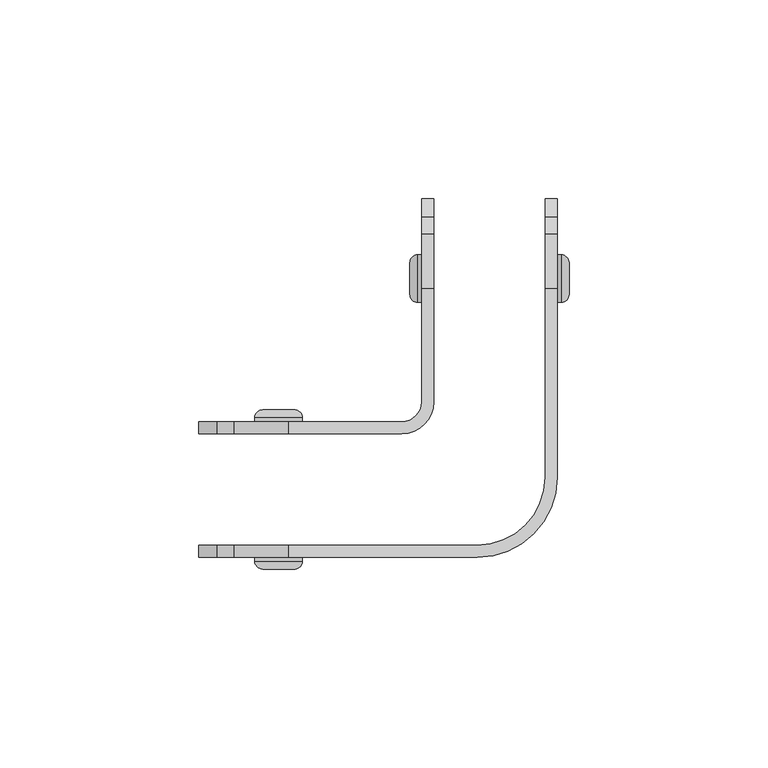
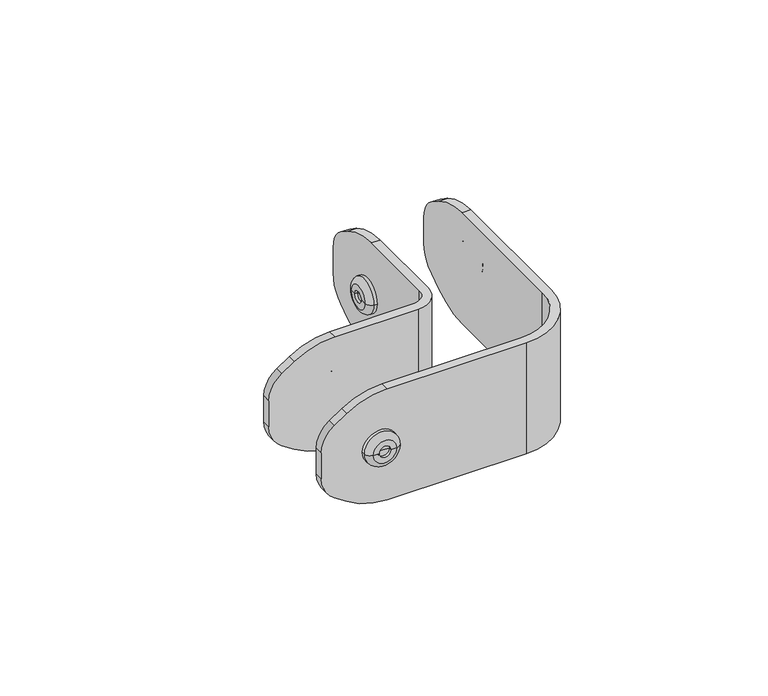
"""IFC4 building model written with IfcOpenShell, lengths in millimetres: furniture geometry, DBLTD_Sixteen3_PrivacyScreens_Artus_Bracket : 90° Corner Link."""

from ifc_helpers import new_model, si_unit, point, frame, origin, place, context, project, spatial, polyline, circle_curve, ellipse_curve, trimmed, source, transform, mapped, element, save
from ifc_brep_helpers import plane_surface, cylinder_surface, revolved_surface, advanced_brep


def furniture_53994bdf(model_context):
    return source(origin(), model_context, "Body", "AdvancedBrep", [
        advanced_brep(
        [(17.0, 867.0, 100.0), (17.0, 879.0, 100.0), (17.9858199, 879.0, 100.0), (17.9858199, 867.0, 100.0), (17.0, 873.0, 100.0), (19.0, 871.0, 100.0), (19.0, 875.0, 100.0), (19.0, 873.0, 100.0), (20.0, 871.0, 100.0), (20.0, 875.0, 100.0), (20.0, 869.0141801, 100.0), (20.0, 876.9858199, 100.0)],
        [
            (0, 1, circle_curve(frame((17.0, 873.0, 100.0), z_axis=(1.0, 0.0, 0.0), x_axis=(0.0, 1.0, 0.0)), 6.0)),
            (1, 2),
            (2, 3, circle_curve(frame((17.9858199, 873.0, 100.0), z_axis=(-1.0, 0.0, 0.0), x_axis=(0.0, 1.0, 0.0)), 6.0)),
            (3, 0),
            (1, 0, circle_curve(frame((17.0, 873.0, 100.0), z_axis=(1.0, 0.0, 0.0), x_axis=(0.0, 1.0, 0.0)), 6.0)),
            (3, 2, circle_curve(frame((17.9858199, 873.0, 100.0), z_axis=(-1.0, 0.0, 0.0), x_axis=(0.0, 1.0, 0.0)), 6.0)),
            (4, 1),
            (0, 4),
            (5, 6, circle_curve(frame((19.0, 873.0, 100.0), z_axis=(1.0, 0.0, 0.0), x_axis=(0.0, 1.0, 0.0)), 2.0)),
            (6, 7),
            (7, 5),
            (6, 5, circle_curve(frame((19.0, 873.0, 100.0), z_axis=(1.0, 0.0, 0.0), x_axis=(0.0, 1.0, 0.0)), 2.0)),
            (8, 9, circle_curve(frame((20.0, 873.0, 100.0), z_axis=(1.0, 0.0, 0.0), x_axis=(0.0, 1.0, 0.0)), 2.0)),
            (9, 6),
            (5, 8),
            (9, 8, circle_curve(frame((20.0, 873.0, 100.0), z_axis=(1.0, 0.0, 0.0), x_axis=(0.0, 1.0, 0.0)), 2.0)),
            (10, 11, circle_curve(frame((20.0, 873.0, 100.0), z_axis=(1.0, 0.0, 0.0), x_axis=(0.0, 1.0, 0.0)), 3.9858199)),
            (11, 9),
            (8, 10),
            (11, 10, circle_curve(frame((20.0, 873.0, 100.0), z_axis=(1.0, 0.0, 0.0), x_axis=(0.0, 1.0, 0.0)), 3.9858199)),
            (2, 11, circle_curve(frame((17.9858199, 876.9858199, 100.0), z_axis=(0.0, 0.0, -1.0), x_axis=(0.0, -1.0, 0.0)), 2.0141801)),
            (10, 3, circle_curve(frame((17.9858199, 869.0141801, 100.0), z_axis=(0.0, 0.0, -1.0), x_axis=(0.0, 1.0, 0.0)), 2.0141801)),
        ],
        [
            cylinder_surface(frame((18.424474, 873.0, 100.0), z_axis=(-1.0, 0.0, 0.0), x_axis=(0.0, 1.0, 0.0)), 6.0),
            plane_surface(frame((17.0, 873.0, 100.0), z_axis=(-1.0, 0.0, 0.0), x_axis=(0.0, 1.0, 0.0))),
            plane_surface(frame((19.0, 873.0, 100.0), z_axis=(1.0, 0.0, 0.0), x_axis=(0.0, 1.0, 0.0))),
            revolved_surface(polyline([(19.0, 875.0, 100.0), (20.0, 875.0, 100.0)]), (18.424474, 873.0, 100.0), (-1.0, 0.0, 0.0)),
            plane_surface(frame((20.0, 873.0, 100.0), z_axis=(1.0, 0.0, 0.0), x_axis=(0.0, 1.0, 0.0))),
            revolved_surface(trimmed(ellipse_curve(frame((17.9858199, 876.9858199, 100.0), z_axis=(0.0, 0.0, 1.0), x_axis=(0.0, -1.0, 0.0)), 2.0141801, 2.0141801), [point((20.0, 876.9858199, 100.0))], [point((17.9858199, 879.0, 100.0))], True, "CARTESIAN"), (18.424474, 873.0, 100.0), (-1.0, 0.0, 0.0)),
        ],
        [
            (0, [[1, 2, 3, 4]]),
            (0, [[5, -4, 6, -2]]),
            (1, [[7, -1, 8]]),
            (1, [[-8, -5, -7]]),
            (2, [[9, 10, 11]]),
            (2, [[12, -11, -10]]),
            (3, [[13, 14, -9, 15]]),
            (3, [[16, -15, -12, -14]]),
            (4, [[17, 18, -13, 19]]),
            (4, [[20, -19, -16, -18]]),
            (5, [[-3, 21, -17, 22]]),
            (5, [[-6, -22, -20, -21]]),
        ],
    ),
        advanced_brep(
        [(-17.9858199, 867.0, 100.0), (-17.9858199, 879.0, 100.0), (-17.0, 879.0, 100.0), (-17.0, 867.0, 100.0), (-17.0, 873.0, 100.0), (-19.0, 873.0, 100.0), (-19.0, 875.0, 100.0), (-19.0, 871.0, 100.0), (-20.0, 875.0, 100.0), (-20.0, 871.0, 100.0), (-20.0, 876.9858199, 100.0), (-20.0, 869.0141801, 100.0)],
        [
            (0, 1, circle_curve(frame((-17.9858199, 873.0, 100.0), z_axis=(1.0, 0.0, 0.0), x_axis=(0.0, 1.0, 0.0)), 6.0)),
            (1, 2),
            (2, 3, circle_curve(frame((-17.0, 873.0, 100.0), z_axis=(-1.0, 0.0, 0.0), x_axis=(0.0, 1.0, 0.0)), 6.0)),
            (3, 0),
            (1, 0, circle_curve(frame((-17.9858199, 873.0, 100.0), z_axis=(1.0, 0.0, 0.0), x_axis=(0.0, 1.0, 0.0)), 6.0)),
            (3, 2, circle_curve(frame((-17.0, 873.0, 100.0), z_axis=(-1.0, 0.0, 0.0), x_axis=(0.0, 1.0, 0.0)), 6.0)),
            (2, 4),
            (4, 3),
            (5, 6),
            (6, 7, circle_curve(frame((-19.0, 873.0, 100.0), z_axis=(-1.0, 0.0, 0.0), x_axis=(0.0, 1.0, 0.0)), 2.0)),
            (7, 5),
            (7, 6, circle_curve(frame((-19.0, 873.0, 100.0), z_axis=(-1.0, 0.0, 0.0), x_axis=(0.0, 1.0, 0.0)), 2.0)),
            (6, 8),
            (8, 9, circle_curve(frame((-20.0, 873.0, 100.0), z_axis=(-1.0, 0.0, 0.0), x_axis=(0.0, 1.0, 0.0)), 2.0)),
            (9, 7),
            (9, 8, circle_curve(frame((-20.0, 873.0, 100.0), z_axis=(-1.0, 0.0, 0.0), x_axis=(0.0, 1.0, 0.0)), 2.0)),
            (8, 10),
            (10, 11, circle_curve(frame((-20.0, 873.0, 100.0), z_axis=(-1.0, 0.0, 0.0), x_axis=(0.0, 1.0, 0.0)), 3.9858199)),
            (11, 9),
            (11, 10, circle_curve(frame((-20.0, 873.0, 100.0), z_axis=(-1.0, 0.0, 0.0), x_axis=(0.0, 1.0, 0.0)), 3.9858199)),
            (10, 1, circle_curve(frame((-17.9858199, 876.9858199, 100.0), z_axis=(0.0, 0.0, -1.0), x_axis=(0.0, -1.0, 0.0)), 2.0141801)),
            (0, 11, circle_curve(frame((-17.9858199, 869.0141801, 100.0), z_axis=(0.0, 0.0, -1.0), x_axis=(0.0, 1.0, 0.0)), 2.0141801)),
        ],
        [
            cylinder_surface(frame((-18.424474, 873.0, 100.0), z_axis=(-1.0, 0.0, 0.0), x_axis=(0.0, 1.0, 0.0)), 6.0),
            plane_surface(frame((-17.0, 873.0, 100.0), z_axis=(1.0, 0.0, 0.0), x_axis=(0.0, 1.0, 0.0))),
            plane_surface(frame((-19.0, 873.0, 100.0), z_axis=(-1.0, 0.0, 0.0), x_axis=(0.0, 1.0, 0.0))),
            revolved_surface(polyline([(-20.0, 875.0, 100.0), (-19.0, 875.0, 100.0)]), (-18.424474, 873.0, 100.0), (-1.0, 0.0, 0.0)),
            plane_surface(frame((-20.0, 873.0, 100.0), z_axis=(-1.0, 0.0, 0.0), x_axis=(0.0, 1.0, 0.0))),
            revolved_surface(trimmed(ellipse_curve(frame((-17.9858199, 876.9858199, 100.0), z_axis=(0.0, 0.0, 1.0), x_axis=(0.0, -1.0, 0.0)), 2.0141801, 2.0141801), [point((-17.9858199, 879.0, 100.0))], [point((-20.0, 876.9858199, 100.0))], True, "CARTESIAN"), (-18.424474, 873.0, 100.0), (-1.0, 0.0, 0.0)),
        ],
        [
            (0, [[1, 2, 3, 4]]),
            (0, [[5, -4, 6, -2]]),
            (1, [[-3, 7, 8]]),
            (1, [[-6, -8, -7]]),
            (2, [[9, 10, 11]]),
            (2, [[-11, 12, -9]]),
            (3, [[-10, 13, 14, 15]]),
            (3, [[-12, -15, 16, -13]]),
            (4, [[-14, 17, 18, 19]]),
            (4, [[-16, -19, 20, -17]]),
            (5, [[-18, 21, -1, 22]]),
            (5, [[-20, -22, -5, -21]]),
        ],
    ),
        advanced_brep(
        [(-47.0, 802.0141801, 100.0), (-59.0, 802.0141801, 100.0), (-59.0, 803.0, 100.0), (-47.0, 803.0, 100.0), (-53.0, 803.0, 100.0), (-53.0, 801.0, 100.0), (-55.0, 801.0, 100.0), (-51.0, 801.0, 100.0), (-55.0, 800.0, 100.0), (-51.0, 800.0, 100.0), (-56.9858199, 800.0, 100.0), (-49.0141801, 800.0, 100.0)],
        [
            (0, 1, circle_curve(frame((-53.0, 802.0141801, 100.0), z_axis=(0.0, 1.0, 0.0), x_axis=(-1.0, 0.0, 0.0)), 6.0)),
            (1, 2),
            (2, 3, circle_curve(frame((-53.0, 803.0, 100.0), z_axis=(0.0, -1.0, 0.0), x_axis=(-1.0, 0.0, 0.0)), 6.0)),
            (3, 0),
            (1, 0, circle_curve(frame((-53.0, 802.0141801, 100.0), z_axis=(0.0, 1.0, 0.0), x_axis=(-1.0, 0.0, 0.0)), 6.0)),
            (3, 2, circle_curve(frame((-53.0, 803.0, 100.0), z_axis=(0.0, -1.0, 0.0), x_axis=(-1.0, 0.0, 0.0)), 6.0)),
            (2, 4),
            (4, 3),
            (5, 6),
            (6, 7, circle_curve(frame((-53.0, 801.0, 100.0), z_axis=(0.0, -1.0, 0.0), x_axis=(-1.0, 0.0, 0.0)), 2.0)),
            (7, 5),
            (7, 6, circle_curve(frame((-53.0, 801.0, 100.0), z_axis=(0.0, -1.0, 0.0), x_axis=(-1.0, 0.0, 0.0)), 2.0)),
            (6, 8),
            (8, 9, circle_curve(frame((-53.0, 800.0, 100.0), z_axis=(0.0, -1.0, 0.0), x_axis=(-1.0, 0.0, 0.0)), 2.0)),
            (9, 7),
            (9, 8, circle_curve(frame((-53.0, 800.0, 100.0), z_axis=(0.0, -1.0, 0.0), x_axis=(-1.0, 0.0, 0.0)), 2.0)),
            (8, 10),
            (10, 11, circle_curve(frame((-53.0, 800.0, 100.0), z_axis=(0.0, -1.0, 0.0), x_axis=(-1.0, 0.0, 0.0)), 3.9858199)),
            (11, 9),
            (11, 10, circle_curve(frame((-53.0, 800.0, 100.0), z_axis=(0.0, -1.0, 0.0), x_axis=(-1.0, 0.0, 0.0)), 3.9858199)),
            (10, 1, circle_curve(frame((-56.9858199, 802.0141801, 100.0), z_axis=(0.0, 0.0, -1.0), x_axis=(1.0, 0.0, 0.0)), 2.0141801)),
            (0, 11, circle_curve(frame((-49.0141801, 802.0141801, 100.0), z_axis=(0.0, 0.0, -1.0), x_axis=(-1.0, 0.0, 0.0)), 2.0141801)),
        ],
        [
            cylinder_surface(frame((-53.0, 801.575526, 100.0), z_axis=(0.0, -1.0, 0.0), x_axis=(-1.0, 0.0, 0.0)), 6.0),
            plane_surface(frame((-53.0, 803.0, 100.0), z_axis=(0.0, 1.0, 0.0), x_axis=(-1.0, 0.0, 0.0))),
            plane_surface(frame((-53.0, 801.0, 100.0), z_axis=(0.0, -1.0, 0.0), x_axis=(-1.0, 0.0, 0.0))),
            revolved_surface(polyline([(-55.0, 800.0, 100.0), (-55.0, 801.0, 100.0)]), (-53.0, 801.575526, 100.0), (0.0, -1.0, 0.0)),
            plane_surface(frame((-53.0, 800.0, 100.0), z_axis=(0.0, -1.0, 0.0), x_axis=(-1.0, 0.0, 0.0))),
            revolved_surface(trimmed(ellipse_curve(frame((-56.9858199, 802.0141801, 100.0), z_axis=(0.0, 0.0, 1.0), x_axis=(1.0, 0.0, 0.0)), 2.0141801, 2.0141801), [point((-59.0, 802.0141801, 100.0))], [point((-56.9858199, 800.0, 100.0))], True, "CARTESIAN"), (-53.0, 801.575526, 100.0), (0.0, -1.0, 0.0)),
        ],
        [
            (0, [[1, 2, 3, 4]]),
            (0, [[5, -4, 6, -2]]),
            (1, [[-3, 7, 8]]),
            (1, [[-6, -8, -7]]),
            (2, [[9, 10, 11]]),
            (2, [[-11, 12, -9]]),
            (3, [[-10, 13, 14, 15]]),
            (3, [[-12, -15, 16, -13]]),
            (4, [[-14, 17, 18, 19]]),
            (4, [[-16, -19, 20, -17]]),
            (5, [[-18, 21, -1, 22]]),
            (5, [[-20, -22, -5, -21]]),
        ],
    ),
        advanced_brep(
        [(-47.0, 837.0, 100.0), (-59.0, 837.0, 100.0), (-59.0, 837.9858199, 100.0), (-47.0, 837.9858199, 100.0), (-53.0, 837.0, 100.0), (-51.0, 839.0, 100.0), (-55.0, 839.0, 100.0), (-53.0, 839.0, 100.0), (-51.0, 840.0, 100.0), (-55.0, 840.0, 100.0), (-49.0141801, 840.0, 100.0), (-56.9858199, 840.0, 100.0)],
        [
            (0, 1, circle_curve(frame((-53.0, 837.0, 100.0), z_axis=(0.0, 1.0, 0.0), x_axis=(-1.0, 0.0, 0.0)), 6.0)),
            (1, 2),
            (2, 3, circle_curve(frame((-53.0, 837.9858199, 100.0), z_axis=(0.0, -1.0, 0.0), x_axis=(-1.0, 0.0, 0.0)), 6.0)),
            (3, 0),
            (1, 0, circle_curve(frame((-53.0, 837.0, 100.0), z_axis=(0.0, 1.0, 0.0), x_axis=(-1.0, 0.0, 0.0)), 6.0)),
            (3, 2, circle_curve(frame((-53.0, 837.9858199, 100.0), z_axis=(0.0, -1.0, 0.0), x_axis=(-1.0, 0.0, 0.0)), 6.0)),
            (4, 1),
            (0, 4),
            (5, 6, circle_curve(frame((-53.0, 839.0, 100.0), z_axis=(0.0, 1.0, 0.0), x_axis=(-1.0, 0.0, 0.0)), 2.0)),
            (6, 7),
            (7, 5),
            (6, 5, circle_curve(frame((-53.0, 839.0, 100.0), z_axis=(0.0, 1.0, 0.0), x_axis=(-1.0, 0.0, 0.0)), 2.0)),
            (8, 9, circle_curve(frame((-53.0, 840.0, 100.0), z_axis=(0.0, 1.0, 0.0), x_axis=(-1.0, 0.0, 0.0)), 2.0)),
            (9, 6),
            (5, 8),
            (9, 8, circle_curve(frame((-53.0, 840.0, 100.0), z_axis=(0.0, 1.0, 0.0), x_axis=(-1.0, 0.0, 0.0)), 2.0)),
            (10, 11, circle_curve(frame((-53.0, 840.0, 100.0), z_axis=(0.0, 1.0, 0.0), x_axis=(-1.0, 0.0, 0.0)), 3.9858199)),
            (11, 9),
            (8, 10),
            (11, 10, circle_curve(frame((-53.0, 840.0, 100.0), z_axis=(0.0, 1.0, 0.0), x_axis=(-1.0, 0.0, 0.0)), 3.9858199)),
            (2, 11, circle_curve(frame((-56.9858199, 837.9858199, 100.0), z_axis=(0.0, 0.0, -1.0), x_axis=(1.0, 0.0, 0.0)), 2.0141801)),
            (10, 3, circle_curve(frame((-49.0141801, 837.9858199, 100.0), z_axis=(0.0, 0.0, -1.0), x_axis=(-1.0, 0.0, 0.0)), 2.0141801)),
        ],
        [
            cylinder_surface(frame((-53.0, 838.424474, 100.0), z_axis=(0.0, -1.0, 0.0), x_axis=(-1.0, 0.0, 0.0)), 6.0),
            plane_surface(frame((-53.0, 837.0, 100.0), z_axis=(0.0, -1.0, 0.0), x_axis=(-1.0, 0.0, 0.0))),
            plane_surface(frame((-53.0, 839.0, 100.0), z_axis=(0.0, 1.0, 0.0), x_axis=(-1.0, 0.0, 0.0))),
            revolved_surface(polyline([(-55.0, 839.0, 100.0), (-55.0, 840.0, 100.0)]), (-53.0, 838.424474, 100.0), (0.0, -1.0, 0.0)),
            plane_surface(frame((-53.0, 840.0, 100.0), z_axis=(0.0, 1.0, 0.0), x_axis=(-1.0, 0.0, 0.0))),
            revolved_surface(trimmed(ellipse_curve(frame((-56.9858199, 837.9858199, 100.0), z_axis=(0.0, 0.0, 1.0), x_axis=(1.0, 0.0, 0.0)), 2.0141801, 2.0141801), [point((-56.9858199, 840.0, 100.0))], [point((-59.0, 837.9858199, 100.0))], True, "CARTESIAN"), (-53.0, 838.424474, 100.0), (0.0, -1.0, 0.0)),
        ],
        [
            (0, [[1, 2, 3, 4]]),
            (0, [[5, -4, 6, -2]]),
            (1, [[7, -1, 8]]),
            (1, [[-8, -5, -7]]),
            (2, [[9, 10, 11]]),
            (2, [[12, -11, -10]]),
            (3, [[13, 14, -9, 15]]),
            (3, [[16, -15, -12, -14]]),
            (4, [[17, 18, -13, 19]]),
            (4, [[20, -19, -16, -18]]),
            (5, [[-3, 21, -17, 22]]),
            (5, [[-6, -22, -20, -21]]),
        ],
    ),
        advanced_brep(
        [(14.0, 823.0, 120.0), (-3.0, 806.0, 120.0), (-50.4306091, 806.0, 120.0), (-50.4306091, 803.0, 120.0), (-3.0, 803.0, 120.0), (17.0, 823.0, 120.0), (17.0, 870.4306091, 120.0), (14.0, 870.4306091, 120.0), (17.0, 823.0, 80.0), (-3.0, 803.0, 80.0), (-50.4306091, 803.0, 80.0), (-50.4306091, 806.0, 80.0), (-3.0, 806.0, 80.0), (14.0, 823.0, 80.0), (14.0, 870.4306091, 80.0), (17.0, 870.4306091, 80.0), (-64.298114, 806.0, 84.1987426), (-68.547002, 806.0, 87.0313346), (-73.0, 806.0, 95.3518376), (-73.0, 806.0, 104.6481624), (-68.547002, 806.0, 112.9686654), (-64.298114, 806.0, 115.8012574), (-73.0, 803.0, 95.3518376), (-73.0, 803.0, 104.6481624), (-64.298114, 803.0, 115.8012574), (-68.547002, 803.0, 112.9686654), (-68.547002, 803.0, 87.0313346), (-64.298114, 803.0, 84.1987426), (17.0, 884.298114, 84.1987426), (17.0, 888.547002, 87.0313346), (17.0, 893.0, 95.3518376), (17.0, 893.0, 104.6481624), (17.0, 888.547002, 112.9686654), (17.0, 884.298114, 115.8012574), (14.0, 893.0, 95.3518376), (14.0, 893.0, 104.6481624), (14.0, 884.298114, 115.8012574), (14.0, 888.547002, 112.9686654), (14.0, 888.547002, 87.0313346), (14.0, 884.298114, 84.1987426)],
        [
            (0, 1, circle_curve(frame((-3.0, 823.0, 120.0), z_axis=(0.0, 0.0, -1.0), x_axis=(1.0, 0.0, 0.0)), 17.0)),
            (1, 2),
            (2, 3),
            (3, 4),
            (4, 5, circle_curve(frame((-3.0, 823.0, 120.0), z_axis=(0.0, 0.0, 1.0), x_axis=(1.0, 0.0, 0.0)), 20.0)),
            (5, 6),
            (6, 7),
            (7, 0),
            (8, 9, circle_curve(frame((-3.0, 823.0, 80.0), z_axis=(0.0, 0.0, -1.0), x_axis=(1.0, 0.0, 0.0)), 20.0)),
            (9, 10),
            (10, 11),
            (11, 12),
            (12, 13, circle_curve(frame((-3.0, 823.0, 80.0), z_axis=(0.0, 0.0, 1.0), x_axis=(1.0, 0.0, 0.0)), 17.0)),
            (13, 14),
            (14, 15),
            (15, 8),
            (0, 13),
            (12, 1),
            (11, 16, circle_curve(frame((-50.4306091, 806.0, 105.0), z_axis=(0.0, 1.0, 0.0), x_axis=(1.0, 0.0, 0.0)), 25.0)),
            (16, 17),
            (17, 18, circle_curve(frame((-63.0, 806.0, 95.3518376), z_axis=(0.0, 1.0, 0.0), x_axis=(1.0, 0.0, 0.0)), 10.0)),
            (18, 19),
            (19, 20, circle_curve(frame((-63.0, 806.0, 104.6481624), z_axis=(0.0, 1.0, 0.0), x_axis=(1.0, 0.0, 0.0)), 10.0)),
            (20, 21),
            (21, 2, circle_curve(frame((-50.4306091, 806.0, 95.0), z_axis=(0.0, 1.0, 0.0), x_axis=(1.0, 0.0, 0.0)), 25.0)),
            (18, 22),
            (22, 23),
            (23, 19),
            (9, 4),
            (3, 24, circle_curve(frame((-50.4306091, 803.0, 95.0), z_axis=(0.0, -1.0, 0.0), x_axis=(1.0, 0.0, 0.0)), 25.0)),
            (24, 25),
            (25, 23, circle_curve(frame((-63.0, 803.0, 104.6481624), z_axis=(0.0, -1.0, 0.0), x_axis=(1.0, 0.0, 0.0)), 10.0)),
            (22, 26, circle_curve(frame((-63.0, 803.0, 95.3518376), z_axis=(0.0, -1.0, 0.0), x_axis=(1.0, 0.0, 0.0)), 10.0)),
            (26, 27),
            (27, 10, circle_curve(frame((-50.4306091, 803.0, 105.0), z_axis=(0.0, -1.0, 0.0), x_axis=(1.0, 0.0, 0.0)), 25.0)),
            (8, 5),
            (15, 28, circle_curve(frame((17.0, 870.4306091, 105.0), z_axis=(1.0, 0.0, 0.0), x_axis=(0.0, -1.0, 0.0)), 25.0)),
            (28, 29),
            (29, 30, circle_curve(frame((17.0, 883.0, 95.3518376), z_axis=(1.0, 0.0, 0.0), x_axis=(0.0, -1.0, 0.0)), 10.0)),
            (30, 31),
            (31, 32, circle_curve(frame((17.0, 883.0, 104.6481624), z_axis=(1.0, 0.0, 0.0), x_axis=(0.0, -1.0, 0.0)), 10.0)),
            (32, 33),
            (33, 6, circle_curve(frame((17.0, 870.4306091, 95.0), z_axis=(1.0, 0.0, 0.0), x_axis=(0.0, -1.0, 0.0)), 25.0)),
            (30, 34),
            (34, 35),
            (35, 31),
            (7, 36, circle_curve(frame((14.0, 870.4306091, 95.0), z_axis=(-1.0, 0.0, 0.0), x_axis=(0.0, -1.0, 0.0)), 25.0)),
            (36, 37),
            (37, 35, circle_curve(frame((14.0, 883.0, 104.6481624), z_axis=(-1.0, 0.0, 0.0), x_axis=(0.0, -1.0, 0.0)), 10.0)),
            (34, 38, circle_curve(frame((14.0, 883.0, 95.3518376), z_axis=(-1.0, 0.0, 0.0), x_axis=(0.0, -1.0, 0.0)), 10.0)),
            (38, 39),
            (39, 14, circle_curve(frame((14.0, 870.4306091, 105.0), z_axis=(-1.0, 0.0, 0.0), x_axis=(0.0, -1.0, 0.0)), 25.0)),
            (27, 16),
            (26, 17),
            (25, 20),
            (24, 21),
            (39, 28),
            (38, 29),
            (37, 32),
            (36, 33),
        ],
        [
            plane_surface(frame((14.0, 823.0, 120.0), z_axis=(0.0, 0.0, 1.0), x_axis=(0.0, -1.0, 0.0))),
            plane_surface(frame((14.0, 823.0, 80.0), z_axis=(0.0, 0.0, -1.0), x_axis=(0.0, 1.0, 0.0))),
            revolved_surface(polyline([(14.0, 823.0, 80.0), (14.0, 823.0, 120.0)]), (-3.0, 823.0, 80.0), (0.0, 0.0, -1.0)),
            plane_surface(frame((-3.0, 806.0, 120.0), z_axis=(0.0, 1.0, 0.0), x_axis=(0.0, 0.0, -1.0))),
            plane_surface(frame((-73.0, 806.0, 120.0), z_axis=(-1.0, 0.0, 0.0), x_axis=(0.0, 0.0, -1.0))),
            plane_surface(frame((-73.0, 803.0, 120.0), z_axis=(0.0, -1.0, 0.0), x_axis=(0.0, 0.0, -1.0))),
            cylinder_surface(frame((-3.0, 823.0, 80.0), z_axis=(0.0, 0.0, 1.0), x_axis=(1.0, 0.0, 0.0)), 20.0),
            plane_surface(frame((17.0, 823.0, 120.0), z_axis=(1.0, 0.0, 0.0), x_axis=(0.0, 0.0, -1.0))),
            plane_surface(frame((17.0, 893.0, 120.0), z_axis=(0.0, 1.0, 0.0), x_axis=(0.0, 0.0, -1.0))),
            plane_surface(frame((14.0, 893.0, 120.0), z_axis=(-1.0, 0.0, 0.0), x_axis=(0.0, 0.0, -1.0))),
            cylinder_surface(frame((-50.4306091, 837.0, 105.0), z_axis=(0.0, 1.0, 0.0), x_axis=(1.0, 0.0, 0.0)), 25.0),
            plane_surface(frame((-64.298114, 803.0, 84.1987426), z_axis=(-0.5547001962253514, 0.0, -0.8320502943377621), x_axis=(0.0, 1.0, 0.0))),
            cylinder_surface(frame((-63.0, 837.0, 95.3518376), z_axis=(0.0, 1.0, 0.0), x_axis=(1.0, 0.0, 0.0)), 10.0),
            cylinder_surface(frame((-63.0, 0.0, 104.6481624), z_axis=(0.0, 1.0, 0.0), x_axis=(1.0, 0.0, 0.0)), 10.0),
            plane_surface(frame((-68.547002, 803.0, 112.9686654), z_axis=(-0.5547001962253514, 0.0, 0.8320502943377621), x_axis=(0.0, 1.0, 0.0))),
            cylinder_surface(frame((-50.4306091, 0.0, 95.0), z_axis=(0.0, 1.0, 0.0), x_axis=(1.0, 0.0, 0.0)), 25.0),
            cylinder_surface(frame((-17.0, 870.4306091, 105.0), z_axis=(-1.0, 0.0, 0.0), x_axis=(0.0, -1.0, 0.0)), 25.0),
            plane_surface(frame((17.0, 888.547002, 87.0313346), z_axis=(0.0, 0.5547001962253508, -0.8320502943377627), x_axis=(-1.0, 0.0, 0.0))),
            cylinder_surface(frame((-17.0, 883.0, 95.3518376), z_axis=(-1.0, 0.0, 0.0), x_axis=(0.0, -1.0, 0.0)), 10.0),
            cylinder_surface(frame((820.0, 883.0, 104.6481624), z_axis=(-1.0, 0.0, 0.0), x_axis=(0.0, -1.0, 0.0)), 10.0),
            plane_surface(frame((17.0, 884.298114, 115.8012574), z_axis=(0.0, 0.5547001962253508, 0.8320502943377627), x_axis=(-1.0, 0.0, 0.0))),
            cylinder_surface(frame((820.0, 870.4306091, 95.0), z_axis=(-1.0, 0.0, 0.0), x_axis=(0.0, -1.0, 0.0)), 25.0),
        ],
        [
            (0, [[1, 2, 3, 4, 5, 6, 7, 8]]),
            (1, [[9, 10, 11, 12, 13, 14, 15, 16]]),
            (2, [[-1, 17, -13, 18]]),
            (3, [[-18, -12, 19, 20, 21, 22, 23, 24, 25, -2]]),
            (4, [[-22, 26, 27, 28]]),
            (5, [[29, -4, 30, 31, 32, -27, 33, 34, 35, -10]]),
            (6, [[-5, -29, -9, 36]]),
            (7, [[-36, -16, 37, 38, 39, 40, 41, 42, 43, -6]]),
            (8, [[-40, 44, 45, 46]]),
            (9, [[-17, -8, 47, 48, 49, -45, 50, 51, 52, -14]]),
            (10, [[53, -19, -11, -35]]),
            (11, [[-53, -34, 54, -20]]),
            (12, [[-54, -33, -26, -21]]),
            (13, [[55, -23, -28, -32]]),
            (14, [[-55, -31, 56, -24]]),
            (15, [[-56, -30, -3, -25]]),
            (16, [[57, -37, -15, -52]]),
            (17, [[-57, -51, 58, -38]]),
            (18, [[-58, -50, -44, -39]]),
            (19, [[59, -41, -46, -49]]),
            (20, [[-59, -48, 60, -42]]),
            (21, [[-60, -47, -7, -43]]),
        ],
    ),
        advanced_brep(
        [(-17.0, 842.0, 120.0), (-22.0, 837.0, 120.0), (-50.4306091, 837.0, 120.0), (-50.4306091, 834.0, 120.0), (-22.0, 834.0, 120.0), (-14.0, 842.0, 120.0), (-14.0, 870.4306091, 120.0), (-17.0, 870.4306091, 120.0), (-14.0, 842.0, 80.0), (-22.0, 834.0, 80.0), (-50.4306091, 834.0, 80.0), (-50.4306091, 837.0, 80.0), (-22.0, 837.0, 80.0), (-17.0, 842.0, 80.0), (-17.0, 870.4306091, 80.0), (-14.0, 870.4306091, 80.0), (-64.298114, 837.0, 84.1987426), (-68.547002, 837.0, 87.0313346), (-73.0, 837.0, 95.3518376), (-73.0, 837.0, 104.6481624), (-68.547002, 837.0, 112.9686654), (-64.298114, 837.0, 115.8012574), (-73.0, 834.0, 95.3518376), (-73.0, 834.0, 104.6481624), (-64.298114, 834.0, 115.8012574), (-68.547002, 834.0, 112.9686654), (-68.547002, 834.0, 87.0313346), (-64.298114, 834.0, 84.1987426), (-14.0, 884.298114, 84.1987426), (-14.0, 888.547002, 87.0313346), (-14.0, 893.0, 95.3518376), (-14.0, 893.0, 104.6481624), (-14.0, 888.547002, 112.9686654), (-14.0, 884.298114, 115.8012574), (-17.0, 893.0, 95.3518376), (-17.0, 893.0, 104.6481624), (-17.0, 884.298114, 115.8012574), (-17.0, 888.547002, 112.9686654), (-17.0, 888.547002, 87.0313346), (-17.0, 884.298114, 84.1987426)],
        [
            (0, 1, circle_curve(frame((-22.0, 842.0, 120.0), z_axis=(0.0, 0.0, -1.0), x_axis=(1.0, 0.0, 0.0)), 5.0)),
            (1, 2),
            (2, 3),
            (3, 4),
            (4, 5, circle_curve(frame((-22.0, 842.0, 120.0), z_axis=(0.0, 0.0, 1.0), x_axis=(1.0, 0.0, 0.0)), 8.0)),
            (5, 6),
            (6, 7),
            (7, 0),
            (8, 9, circle_curve(frame((-22.0, 842.0, 80.0), z_axis=(0.0, 0.0, -1.0), x_axis=(1.0, 0.0, 0.0)), 8.0)),
            (9, 10),
            (10, 11),
            (11, 12),
            (12, 13, circle_curve(frame((-22.0, 842.0, 80.0), z_axis=(0.0, 0.0, 1.0), x_axis=(1.0, 0.0, 0.0)), 5.0)),
            (13, 14),
            (14, 15),
            (15, 8),
            (0, 13),
            (12, 1),
            (11, 16, circle_curve(frame((-50.4306091, 837.0, 105.0), z_axis=(0.0, 1.0, 0.0), x_axis=(1.0, 0.0, 0.0)), 25.0)),
            (16, 17),
            (17, 18, circle_curve(frame((-63.0, 837.0, 95.3518376), z_axis=(0.0, 1.0, 0.0), x_axis=(1.0, 0.0, 0.0)), 10.0)),
            (18, 19),
            (19, 20, circle_curve(frame((-63.0, 837.0, 104.6481624), z_axis=(0.0, 1.0, 0.0), x_axis=(1.0, 0.0, 0.0)), 10.0)),
            (20, 21),
            (21, 2, circle_curve(frame((-50.4306091, 837.0, 95.0), z_axis=(0.0, 1.0, 0.0), x_axis=(1.0, 0.0, 0.0)), 25.0)),
            (18, 22),
            (22, 23),
            (23, 19),
            (9, 4),
            (3, 24, circle_curve(frame((-50.4306091, 834.0, 95.0), z_axis=(0.0, -1.0, 0.0), x_axis=(1.0, 0.0, 0.0)), 25.0)),
            (24, 25),
            (25, 23, circle_curve(frame((-63.0, 834.0, 104.6481624), z_axis=(0.0, -1.0, 0.0), x_axis=(1.0, 0.0, 0.0)), 10.0)),
            (22, 26, circle_curve(frame((-63.0, 834.0, 95.3518376), z_axis=(0.0, -1.0, 0.0), x_axis=(1.0, 0.0, 0.0)), 10.0)),
            (26, 27),
            (27, 10, circle_curve(frame((-50.4306091, 834.0, 105.0), z_axis=(0.0, -1.0, 0.0), x_axis=(1.0, 0.0, 0.0)), 25.0)),
            (8, 5),
            (15, 28, circle_curve(frame((-14.0, 870.4306091, 105.0), z_axis=(1.0, 0.0, 0.0), x_axis=(0.0, -1.0, 0.0)), 25.0)),
            (28, 29),
            (29, 30, circle_curve(frame((-14.0, 883.0, 95.3518376), z_axis=(1.0, 0.0, 0.0), x_axis=(0.0, -1.0, 0.0)), 10.0)),
            (30, 31),
            (31, 32, circle_curve(frame((-14.0, 883.0, 104.6481624), z_axis=(1.0, 0.0, 0.0), x_axis=(0.0, -1.0, 0.0)), 10.0)),
            (32, 33),
            (33, 6, circle_curve(frame((-14.0, 870.4306091, 95.0), z_axis=(1.0, 0.0, 0.0), x_axis=(0.0, -1.0, 0.0)), 25.0)),
            (30, 34),
            (34, 35),
            (35, 31),
            (7, 36, circle_curve(frame((-17.0, 870.4306091, 95.0), z_axis=(-1.0, 0.0, 0.0), x_axis=(0.0, -1.0, 0.0)), 25.0)),
            (36, 37),
            (37, 35, circle_curve(frame((-17.0, 883.0, 104.6481624), z_axis=(-1.0, 0.0, 0.0), x_axis=(0.0, -1.0, 0.0)), 10.0)),
            (34, 38, circle_curve(frame((-17.0, 883.0, 95.3518376), z_axis=(-1.0, 0.0, 0.0), x_axis=(0.0, -1.0, 0.0)), 10.0)),
            (38, 39),
            (39, 14, circle_curve(frame((-17.0, 870.4306091, 105.0), z_axis=(-1.0, 0.0, 0.0), x_axis=(0.0, -1.0, 0.0)), 25.0)),
            (27, 16),
            (26, 17),
            (25, 20),
            (24, 21),
            (39, 28),
            (38, 29),
            (37, 32),
            (36, 33),
        ],
        [
            plane_surface(frame((-17.0, 842.0, 120.0), z_axis=(0.0, 0.0, 1.0), x_axis=(0.0, -1.0, 0.0))),
            plane_surface(frame((-17.0, 842.0, 80.0), z_axis=(0.0, 0.0, -1.0), x_axis=(0.0, 1.0, 0.0))),
            revolved_surface(polyline([(-17.0, 842.0, 80.0), (-17.0, 842.0, 120.0)]), (-22.0, 842.0, 80.0), (0.0, 0.0, -1.0)),
            plane_surface(frame((-22.0, 837.0, 120.0), z_axis=(0.0, 1.0, 0.0), x_axis=(0.0, 0.0, -1.0))),
            plane_surface(frame((-73.0, 837.0, 120.0), z_axis=(-1.0, 0.0, 0.0), x_axis=(0.0, 0.0, -1.0))),
            plane_surface(frame((-73.0, 834.0, 120.0), z_axis=(0.0, -1.0, 0.0), x_axis=(0.0, 0.0, -1.0))),
            cylinder_surface(frame((-22.0, 842.0, 80.0), z_axis=(0.0, 0.0, 1.0), x_axis=(1.0, 0.0, 0.0)), 8.0),
            plane_surface(frame((-14.0, 842.0, 120.0), z_axis=(1.0, 0.0, 0.0), x_axis=(0.0, 0.0, -1.0))),
            plane_surface(frame((-14.0, 893.0, 120.0), z_axis=(0.0, 1.0, 0.0), x_axis=(0.0, 0.0, -1.0))),
            plane_surface(frame((-17.0, 893.0, 120.0), z_axis=(-1.0, 0.0, 0.0), x_axis=(0.0, 0.0, -1.0))),
            cylinder_surface(frame((-50.4306091, 837.0, 105.0), z_axis=(0.0, 1.0, 0.0), x_axis=(1.0, 0.0, 0.0)), 25.0),
            plane_surface(frame((-64.298114, 803.0, 84.1987426), z_axis=(-0.5547001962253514, 0.0, -0.8320502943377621), x_axis=(0.0, 1.0, 0.0))),
            cylinder_surface(frame((-63.0, 837.0, 95.3518376), z_axis=(0.0, 1.0, 0.0), x_axis=(1.0, 0.0, 0.0)), 10.0),
            cylinder_surface(frame((-63.0, 0.0, 104.6481624), z_axis=(0.0, 1.0, 0.0), x_axis=(1.0, 0.0, 0.0)), 10.0),
            plane_surface(frame((-68.547002, 803.0, 112.9686654), z_axis=(-0.5547001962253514, 0.0, 0.8320502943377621), x_axis=(0.0, 1.0, 0.0))),
            cylinder_surface(frame((-50.4306091, 0.0, 95.0), z_axis=(0.0, 1.0, 0.0), x_axis=(1.0, 0.0, 0.0)), 25.0),
            cylinder_surface(frame((-17.0, 870.4306091, 105.0), z_axis=(-1.0, 0.0, 0.0), x_axis=(0.0, -1.0, 0.0)), 25.0),
            plane_surface(frame((17.0, 888.547002, 87.0313346), z_axis=(0.0, 0.5547001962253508, -0.8320502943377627), x_axis=(-1.0, 0.0, 0.0))),
            cylinder_surface(frame((-17.0, 883.0, 95.3518376), z_axis=(-1.0, 0.0, 0.0), x_axis=(0.0, -1.0, 0.0)), 10.0),
            cylinder_surface(frame((820.0, 883.0, 104.6481624), z_axis=(-1.0, 0.0, 0.0), x_axis=(0.0, -1.0, 0.0)), 10.0),
            plane_surface(frame((17.0, 884.298114, 115.8012574), z_axis=(0.0, 0.5547001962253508, 0.8320502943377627), x_axis=(-1.0, 0.0, 0.0))),
            cylinder_surface(frame((820.0, 870.4306091, 95.0), z_axis=(-1.0, 0.0, 0.0), x_axis=(0.0, -1.0, 0.0)), 25.0),
        ],
        [
            (0, [[1, 2, 3, 4, 5, 6, 7, 8]]),
            (1, [[9, 10, 11, 12, 13, 14, 15, 16]]),
            (2, [[-1, 17, -13, 18]]),
            (3, [[-18, -12, 19, 20, 21, 22, 23, 24, 25, -2]]),
            (4, [[-22, 26, 27, 28]]),
            (5, [[29, -4, 30, 31, 32, -27, 33, 34, 35, -10]]),
            (6, [[-5, -29, -9, 36]]),
            (7, [[-36, -16, 37, 38, 39, 40, 41, 42, 43, -6]]),
            (8, [[-40, 44, 45, 46]]),
            (9, [[-17, -8, 47, 48, 49, -45, 50, 51, 52, -14]]),
            (10, [[53, -19, -11, -35]]),
            (11, [[-53, -34, 54, -20]]),
            (12, [[-54, -33, -26, -21]]),
            (13, [[55, -23, -28, -32]]),
            (14, [[-55, -31, 56, -24]]),
            (15, [[-56, -30, -3, -25]]),
            (16, [[57, -37, -15, -52]]),
            (17, [[-57, -51, 58, -38]]),
            (18, [[-58, -50, -44, -39]]),
            (19, [[59, -41, -46, -49]]),
            (20, [[-59, -48, 60, -42]]),
            (21, [[-60, -47, -7, -43]]),
        ],
    ),
    ])


if __name__ == "__main__":
    model = new_model("IFC4")
    model_context = context("Model", 3, world=origin())
    ifc_project = project(units=[si_unit("LENGTHUNIT", "METRE", prefix="MILLI")], contexts=[model_context])
    site = spatial("IfcSite", under=ifc_project)
    building = spatial("IfcBuilding", under=site)
    placement = place(None, origin())
    furniture_shape = furniture_53994bdf(model_context)
    element("IfcFurniture", 1, ObjectType="DBLTD_Sixteen3_PrivacyScreens_Artus_Bracket : 90° Corner Link", at=placement, inside=building, context=model_context, shape_type="MappedRepresentation", body=[
        mapped(furniture_shape, transform((0.0, 0.0, 0.0), x_axis=(1.0, 0.0, 0.0), y_axis=(0.0, 1.0, 0.0), z_axis=(0.0, 0.0, 1.0))),
    ])
    save(model, "model.ifc")
